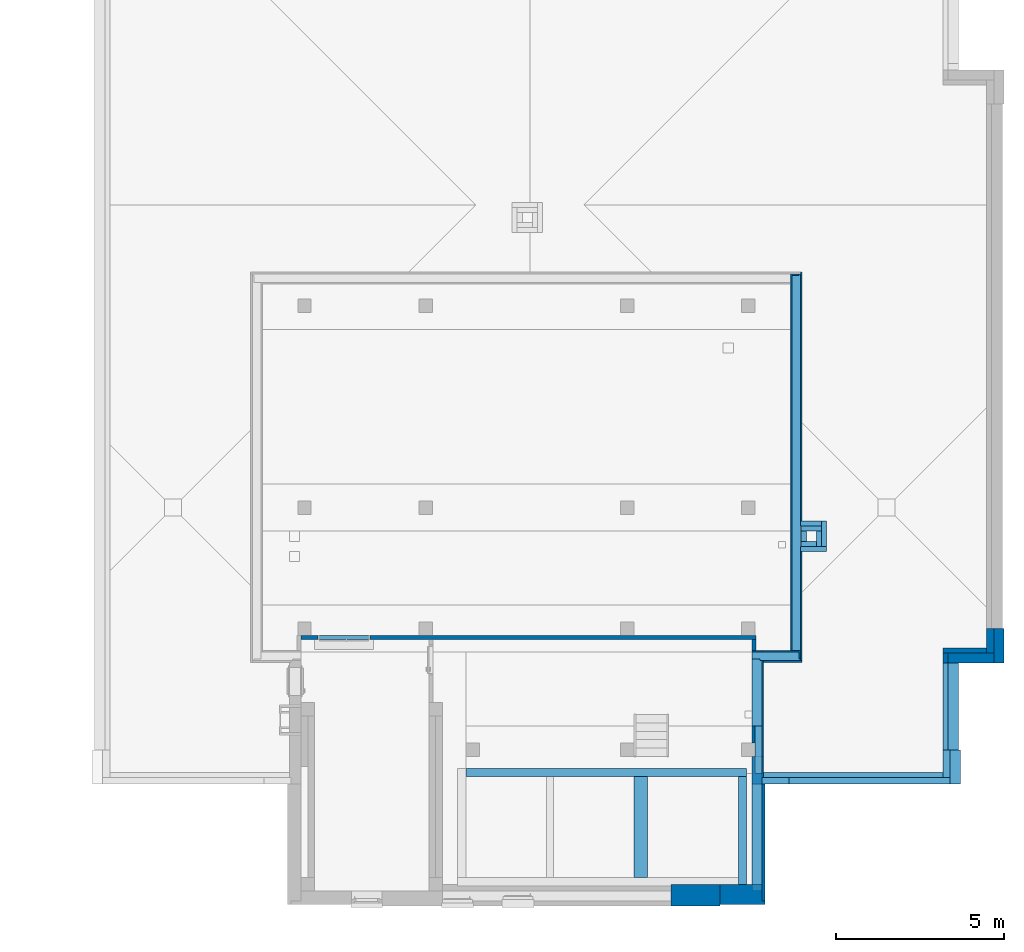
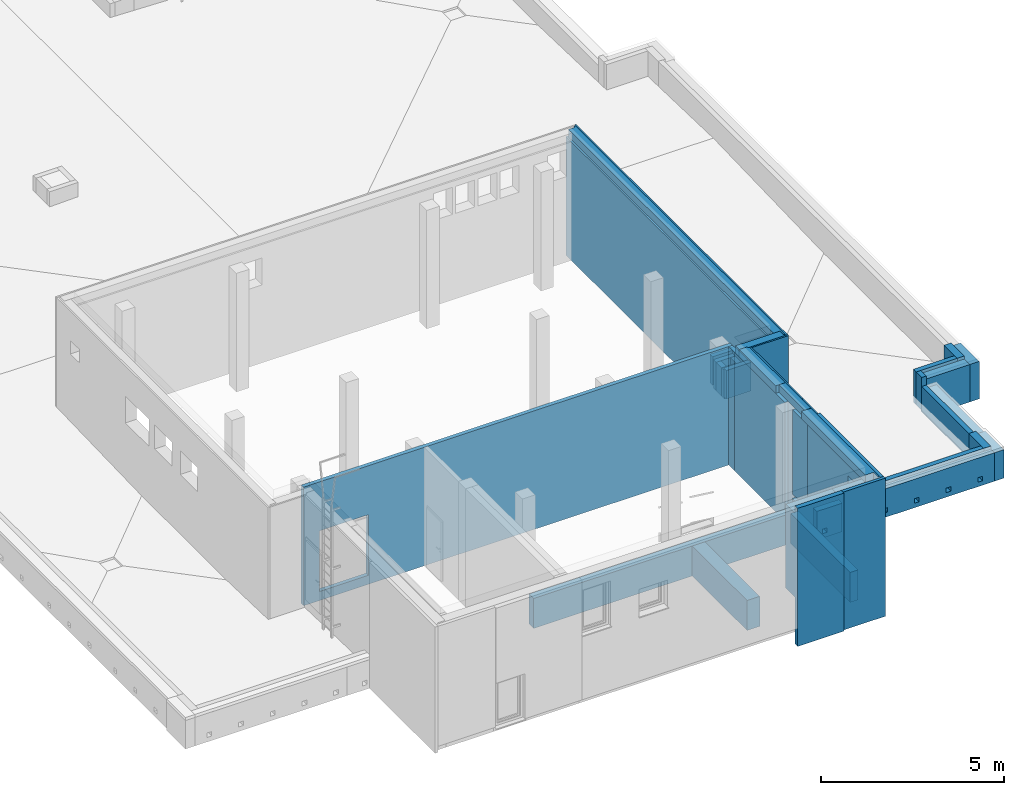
# One storey, part 5 of 17: 37 walls, 10 openings.
"""IFC4 building model written with IfcOpenShell, lengths in metres."""

from ifc_helpers import new_model, entity, si_unit, converted_unit, derived_unit, frame, frame_2d, origin, origin_with_axes, place, context, subcontext, project, spatial, polyline, rectangle, outline, extrude, clip, bounded_halfspace, material, layer, layer_set, layer_usage, element, save


model = new_model("IFC4")

# Units and contexts
model_context = context("Model", 3, precision=1e-05, world=origin())
body_context = subcontext(model_context, "Body", "Model", "MODEL_VIEW")
ifc_project = project(units=[si_unit("LENGTHUNIT", "METRE"), si_unit("AREAUNIT", "SQUARE_METRE"), si_unit("VOLUMEUNIT", "CUBIC_METRE"), si_unit("MASSUNIT", "GRAM", prefix="KILO"), converted_unit("PLANEANGLEUNIT", "DEGREE", entity("IfcPlaneAngleMeasure", 0.0174532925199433), si_unit("PLANEANGLEUNIT", "RADIAN"), dimensions=[0, 0, 0, 0, 0, 0, 0]), derived_unit("THERMALTRANSMITTANCEUNIT", [(si_unit("POWERUNIT", "WATT"), 1), (si_unit("THERMODYNAMICTEMPERATUREUNIT", "KELVIN"), -1), (si_unit("LENGTHUNIT", "METRE"), -2)]), derived_unit("VOLUMETRICFLOWRATEUNIT", [(si_unit("LENGTHUNIT", "METRE"), 3), (converted_unit("TIMEUNIT", "hour", entity("IfcTimeMeasure", 3600.0), si_unit("TIMEUNIT", "SECOND"), dimensions=[0, 0, 1, 0, 0, 0, 0]), -1), (si_unit("LENGTHUNIT", "METRE"), -1)])], contexts=[model_context])

# Site, building, storey
site_placement = place(None, origin())
site = spatial("IfcSite", under=ifc_project, at=site_placement, Name="3. ASŘ", CompositionType="ELEMENT")
building_placement = place(site_placement, origin())
building = spatial("IfcBuilding", under=site, at=building_placement, Name="Pavilon C", CompositionType="ELEMENT")
storey_placement = place(building_placement, frame((0.0, 0.0, 13.8)))
storey = spatial("IfcBuildingStorey", under=building, at=storey_placement, Name="Půdorys 5.NP", CompositionType="ELEMENT", Elevation=13.8)

# Walls
ifc_material_1 = material(Name="PLYNOSILIKÁT")
ifc_layer_1 = layer(ifc_material_1, 0.3)
ifc_layer_set_1 = layer_set([ifc_layer_1])
ifc_layer_usage_1 = layer_usage(ifc_layer_set_1, "AXIS2", "POSITIVE", 0.0)
wall_1_placement = place(storey_placement, frame((44.35, -4.2, -0.1), z_axis=(0.0, 0.0, 1.0), x_axis=(0.0, 1.0, 0.0)))
element("IfcWall", 1, at=wall_1_placement, inside=storey, material=ifc_layer_usage_1, Name="PLYNOSILIKÁT", context=body_context, shape_type="SweptSolid", body=[
    extrude(rectangle(XDim=3.99999999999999, YDim=0.3, at=frame_2d((2.0, 0.15), x_axis=(1.0, 0.0))), origin_with_axes(), (0.0, 0.0, 1.0), 1.0),
])
ifc_material_2 = material(Name="ZDIVO Z CDm")
ifc_layer_2 = layer(ifc_material_2, 0.25)
ifc_layer_set_2 = layer_set([ifc_layer_2])
ifc_layer_usage_2 = layer_usage(ifc_layer_set_2, "AXIS2", "POSITIVE", 0.0)
wall_2_placement = place(storey_placement, frame((43.65, -0.800000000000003, -0.1), z_axis=(0.0, 0.0, 1.0), x_axis=(0.0, -1.0, 0.0)))
element("IfcWall", 2, at=wall_2_placement, inside=storey, material=ifc_layer_usage_2, Name="ZDIVO Z CDm", context=body_context, shape_type="SweptSolid", body=[
    extrude(rectangle(XDim=3.25000000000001, YDim=0.25, at=frame_2d((1.625, 0.125), x_axis=(1.0, 0.0))), origin_with_axes(), (0.0, 0.0, 1.0), 1.0),
])
ifc_material_3 = material(Name="ZDIVO Z CDm")
ifc_layer_3 = layer(ifc_material_3, 0.25)
ifc_layer_set_3 = layer_set([ifc_layer_3])
ifc_layer_usage_3 = layer_usage(ifc_layer_set_3, "AXIS2", "POSITIVE", 0.0)
wall_3_placement = place(storey_placement, frame((35.55, -0.800000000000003, -0.1)))
element("IfcWall", 3, at=wall_3_placement, inside=storey, material=ifc_layer_usage_3, Name="ZDIVO Z CDm", context=body_context, shape_type="SweptSolid", body=[
    extrude(rectangle(XDim=8.34999999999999, YDim=0.25, at=frame_2d((4.175, 0.125), x_axis=(1.0, 0.0))), origin_with_axes(), (0.0, 0.0, 1.0), 1.0),
])

# Wall, opening
ifc_material_4 = material(Name="ZDIVO Z CDm")
ifc_layer_4 = layer(ifc_material_4, 0.125)
ifc_layer_set_4 = layer_set([ifc_layer_4])
ifc_layer_usage_4 = layer_usage(ifc_layer_set_4, "AXIS2", "POSITIVE", 0.0)
wall_4_placement = place(storey_placement, frame((30.65, 3.275, -0.1)))
wall_4 = element("IfcWall", 4, at=wall_4_placement, inside=storey, material=ifc_layer_usage_4, Name="ZDIVO Z CDm", context=body_context, shape_type="SweptSolid", body=[
    extrude(rectangle(XDim=13.525, YDim=0.125, at=frame_2d((6.7625, 0.0625000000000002), x_axis=(1.0, 0.0))), origin_with_axes(), (0.0, 0.0, 1.0), 3.95),
])
opening_1_placement = place(wall_4_placement, frame((0.5, 0.0, 0.3), z_axis=(0.0, 1.0, 0.0), x_axis=(0.0, 0.0, 1.0)))
element("IfcOpeningElement", 5, at=opening_1_placement, cuts=wall_4, Name="Dveřní otvor", ObjectType="Opening", context=body_context, shape_type="SweptSolid", body=[
    extrude(outline(polyline([(0.0, 1.55), (2.02, 1.55), (2.02, 0.0), (0.0, 0.0), (0.0, 1.55)])), origin_with_axes(), (0.0, 0.0, 1.0), 0.125),
])

# Walls
ifc_material_5 = material(Name="ZDIVO Z CDm")
ifc_layer_5 = layer(ifc_material_5, 0.125)
ifc_layer_set_5 = layer_set([ifc_layer_5])
ifc_layer_usage_5 = layer_usage(ifc_layer_set_5, "AXIS2", "POSITIVE", 0.0)
wall_5_placement = place(storey_placement, frame((44.05, 3.275, -0.1), z_axis=(0.0, 0.0, 1.0), x_axis=(0.0, -1.0, 0.0)))
element("IfcWall", 6, at=wall_5_placement, inside=storey, material=ifc_layer_usage_5, Name="ZDIVO Z CDm", context=body_context, shape_type="SweptSolid", body=[
    extrude(rectangle(XDim=0.325, YDim=0.125, at=frame_2d((0.1625, 0.0625), x_axis=(1.0, 0.0))), origin_with_axes(), (0.0, 0.0, 1.0), 3.95),
])
ifc_material_6 = material(Name="ZDIVO Z CDm")
ifc_layer_6 = layer(ifc_material_6, 0.4)
ifc_layer_set_6 = layer_set([ifc_layer_6])
ifc_layer_usage_6 = layer_usage(ifc_layer_set_6, "AXIS2", "POSITIVE", 0.0)
wall_6_placement = place(storey_placement, frame((40.55, -0.800000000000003, -0.1), z_axis=(0.0, 0.0, 1.0), x_axis=(0.0, -1.0, 0.0)))
element("IfcWall", 7, at=wall_6_placement, inside=storey, material=ifc_layer_usage_6, Name="ZDIVO Z CDm", context=body_context, shape_type="SweptSolid", body=[
    extrude(rectangle(XDim=3.00000000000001, YDim=0.4, at=frame_2d((1.5, 0.2), x_axis=(1.0, 0.0))), origin_with_axes(), (0.0, 0.0, 1.0), 1.0),
])
ifc_material_7 = material(Name="ZDIVO Z CDm")
ifc_layer_7 = layer(ifc_material_7, 0.150000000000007)
ifc_layer_set_7 = layer_set([ifc_layer_7])
ifc_layer_usage_7 = layer_usage(ifc_layer_set_7, "AXIS2", "POSITIVE", 0.0)
wall_7_placement = place(storey_placement, frame((45.97, 6.5, -0.1), z_axis=(0.0, 0.0, 1.0), x_axis=(0.0, -1.0, 0.0)))
element("IfcWall", 8, at=wall_7_placement, inside=storey, material=ifc_layer_usage_7, Name="ZDIVO Z CDm", context=body_context, shape_type="SweptSolid", body=[
    extrude(rectangle(XDim=0.450000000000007, YDim=0.150000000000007, at=frame_2d((0.225000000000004, 0.0750000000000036), x_axis=(1.0, 0.0))), origin_with_axes(), (0.0, 0.0, 1.0), 0.95),
])
ifc_material_8 = material(Name="ZDIVO Z CDm")
ifc_layer_8 = layer(ifc_material_8, 0.150000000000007)
ifc_layer_set_8 = layer_set([ifc_layer_8])
ifc_layer_usage_8 = layer_usage(ifc_layer_set_8, "AXIS2", "POSITIVE", 0.0)
wall_8_placement = place(storey_placement, frame((45.97, 6.2, -0.1), z_axis=(0.0, 0.0, 1.0), x_axis=(-1.0, 0.0, 0.0)))
element("IfcWall", 9, at=wall_8_placement, inside=storey, material=ifc_layer_usage_8, Name="ZDIVO Z CDm", context=body_context, shape_type="SweptSolid", body=[
    extrude(rectangle(XDim=0.450000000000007, YDim=0.150000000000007, at=frame_2d((0.225000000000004, 0.0750000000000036), x_axis=(1.0, 0.0))), origin_with_axes(), (0.0, 0.0, 1.0), 0.95),
])
ifc_material_9 = material(Name="ZDIVO Z CDm")
ifc_layer_9 = layer(ifc_material_9, 0.150000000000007)
ifc_layer_set_9 = layer_set([ifc_layer_9])
ifc_layer_usage_9 = layer_usage(ifc_layer_set_9, "AXIS2", "POSITIVE", 0.0)
wall_9_placement = place(storey_placement, frame((45.67, 6.2, -0.1), z_axis=(0.0, 0.0, 1.0), x_axis=(-4.85063840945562e-14, 1.0, 0.0)))
element("IfcWall", 10, at=wall_9_placement, inside=storey, material=ifc_layer_usage_9, Name="ZDIVO Z CDm", context=body_context, shape_type="SweptSolid", body=[
    extrude(rectangle(XDim=0.3, YDim=0.150000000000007, at=frame_2d((0.15, 0.0750000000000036), x_axis=(1.0, 0.0))), origin_with_axes(), (0.0, 0.0, 1.0), 0.95),
])
ifc_material_10 = material(Name="ZDIVO Z CDm")
ifc_layer_10 = layer(ifc_material_10, 0.150000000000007)
ifc_layer_set_10 = layer_set([ifc_layer_10])
ifc_layer_usage_10 = layer_usage(ifc_layer_set_10, "AXIS2", "POSITIVE", 0.0)
wall_10_placement = place(storey_placement, frame((45.52, 6.5, -0.1)))
element("IfcWall", 11, at=wall_10_placement, inside=storey, material=ifc_layer_usage_10, Name="ZDIVO Z CDm", context=body_context, shape_type="SweptSolid", body=[
    extrude(rectangle(XDim=0.600000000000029, YDim=0.150000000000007, at=frame_2d((0.300000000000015, 0.0750000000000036), x_axis=(1.0, 0.0))), origin_with_axes(), (0.0, 0.0, 1.0), 0.95),
])
ifc_material_11 = material(Name="EPS")
ifc_layer_11 = layer(ifc_material_11, 0.05)
ifc_material_12 = material(Name="PLYNOSILIKÁT")
ifc_layer_12 = layer(ifc_material_12, 0.3)
ifc_layer_set_11 = layer_set([ifc_layer_11, ifc_layer_12])
ifc_layer_usage_11 = layer_usage(ifc_layer_set_11, "AXIS2", "POSITIVE", -0.05)
wall_11_placement = place(storey_placement, frame((45.55, 2.65, -0.1), z_axis=(0.0, 0.0, 1.0), x_axis=(0.0, 1.0, 0.0)))
element("IfcWall", 12, at=wall_11_placement, inside=storey, material=ifc_layer_usage_11, Name="PLYNOSILIKÁT", context=body_context, shape_type="Clipping", body=[
    clip(extrude(outline(polyline([(0.0, -0.35), (11.55, -0.35), (11.55, -0.3), (11.5, -0.3), (11.5, 0.0), (0.3, 0.0), (0.3, -0.3), (0.0, -0.3), (0.0, -0.35)])), frame((0.0, 0.35, 0.0), z_axis=(0.0, 0.0, 1.0), x_axis=(1.0, 0.0, 0.0)), (0.0, 0.0, 1.0), 4.2), bounded_halfspace(frame((5.9, 0.2, 3.95), z_axis=(0.0, 0.0, -1.0), x_axis=(1.0, 0.0, 0.0)), True, origin_with_axes(), polyline([(0.3, 0.05), (11.5, 0.05), (11.5, 0.35), (0.3, 0.35), (0.3, 0.05)]))),
])
ifc_material_13 = material(Name="EPS")
ifc_layer_13 = layer(ifc_material_13, 0.15)
ifc_material_14 = material(Name="PLYNOSILIKÁT")
ifc_layer_14 = layer(ifc_material_14, 0.5)
ifc_layer_set_12 = layer_set([ifc_layer_13, ifc_layer_14])
ifc_layer_usage_12 = layer_usage(ifc_layer_set_12, "AXIS2", "POSITIVE", -0.15)
wall_12_placement = place(storey_placement, frame((41.65, -4.65, -0.5)))
element("IfcWall", 13, at=wall_12_placement, inside=storey, material=ifc_layer_usage_12, Name="PLYNOSILIKÁT", context=body_context, shape_type="Clipping", body=[
    clip(clip(extrude(rectangle(XDim=1.46, YDim=0.65, at=frame_2d((0.73, 0.325), x_axis=(1.0, 0.0))), origin_with_axes(), (0.0, 0.0, 1.0), 4.6), bounded_halfspace(frame((0.73, 0.4, 1.55), z_axis=(0.0, 0.0, 1.0), x_axis=(0.0, -1.0, 0.0)), True, origin_with_axes(), polyline([(0.0, 0.65), (0.0, 0.15), (1.46, 0.15), (1.46, 0.65), (0.0, 0.65)]))), bounded_halfspace(frame((0.73, 0.4, 4.35), z_axis=(0.0, 0.0, -1.0), x_axis=(1.0, 0.0, 0.0)), True, origin_with_axes(), polyline([(0.0, 0.15), (1.46, 0.15), (1.46, 0.65), (0.0, 0.65), (0.0, 0.15)]))),
])
ifc_material_15 = material(Name="EPS")
ifc_layer_15 = layer(ifc_material_15, 0.1)
ifc_material_16 = material(Name="PLYNOSILIKÁT")
ifc_layer_16 = layer(ifc_material_16, 0.5)
ifc_layer_set_13 = layer_set([ifc_layer_15, ifc_layer_16])
ifc_layer_usage_13 = layer_usage(ifc_layer_set_13, "AXIS2", "POSITIVE", -0.1)
wall_13_placement = place(storey_placement, frame((43.11, -4.6, -0.5)))
element("IfcWall", 14, at=wall_13_placement, inside=storey, material=ifc_layer_usage_13, Name="PLYNOSILIKÁT", context=body_context, shape_type="Clipping", body=[
    clip(clip(extrude(outline(polyline([(0.0, 0.0), (1.34, 0.0), (1.34, 0.1), (1.24, 0.1), (1.24, 0.6), (0.0, 0.6), (0.0, 0.0)])), origin_with_axes(), (0.0, 0.0, 1.0), 4.6), bounded_halfspace(frame((0.62, 0.35, 1.55), z_axis=(0.0, 0.0, 1.0), x_axis=(0.0, -1.0, 0.0)), True, origin_with_axes(), polyline([(0.0, 0.6), (0.0, 0.1), (1.24, 0.1), (1.24, 0.6), (0.0, 0.6)]))), bounded_halfspace(frame((0.62, 0.35, 4.35), z_axis=(0.0, 0.0, -1.0), x_axis=(1.0, 0.0, 0.0)), True, origin_with_axes(), polyline([(0.0, 0.1), (1.24, 0.1), (1.24, 0.6), (0.0, 0.6), (0.0, 0.1)]))),
])

# Wall, opening
ifc_material_17 = material(Name="EPS")
ifc_layer_17 = layer(ifc_material_17, 0.1)
ifc_material_18 = material(Name="PLYNOSILIKÁT")
ifc_layer_18 = layer(ifc_material_18, 0.3)
ifc_layer_set_14 = layer_set([ifc_layer_17, ifc_layer_18])
ifc_layer_usage_14 = layer_usage(ifc_layer_set_14, "AXIS2", "POSITIVE", -0.1)
wall_14_placement = place(storey_placement, frame((44.45, -4.5, -0.1), z_axis=(0.0, 0.0, 1.0), x_axis=(0.0, 1.0, 0.0)))
wall_14 = element("IfcWall", 15, at=wall_14_placement, inside=storey, material=ifc_layer_usage_14, Name="PLYNOSILIKÁT", context=body_context, shape_type="Clipping", body=[
    clip(clip(extrude(outline(polyline([(0.5, 0.0), (0.5, -0.3), (0.0, -0.3), (0.0, -0.4), (3.48, -0.4), (3.48, 0.0), (0.5, 0.0)])), frame((0.0, 0.4, 0.0), z_axis=(0.0, 0.0, 1.0), x_axis=(1.0, 0.0, 0.0)), (0.0, 0.0, 1.0), 4.2), bounded_halfspace(frame((1.99, 0.25, 1.15), z_axis=(0.0, 0.0, 1.0), x_axis=(0.0, -1.0, 0.0)), True, origin_with_axes(), polyline([(0.5, 0.4), (0.5, 0.1), (3.48, 0.1), (3.48, 0.4), (0.5, 0.4)]))), bounded_halfspace(frame((1.99, 0.25, 3.95), z_axis=(0.0, 0.0, -1.0), x_axis=(1.0, 0.0, 0.0)), True, origin_with_axes(), polyline([(0.5, 0.1), (3.48, 0.1), (3.48, 0.4), (0.5, 0.4), (0.5, 0.1)]))),
])
opening_2_placement = place(wall_14_placement, frame((0.650000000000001, 0.0, 3.1), z_axis=(0.0, 1.0, 0.0), x_axis=(0.0, 0.0, 1.0)))
element("IfcOpeningElement", 16, at=opening_2_placement, cuts=wall_14, Name="Prostup stěnou", ObjectType="Opening", context=body_context, shape_type="SweptSolid", body=[
    extrude(outline(polyline([(0.0, 0.6), (0.5, 0.6), (0.5, 0.0), (0.0, 0.0), (0.0, 0.6)])), origin_with_axes(), (0.0, 0.0, 1.0), 0.1),
    extrude(outline(polyline([(0.0, 0.6), (0.5, 0.6), (0.5, 0.0), (0.0, 0.0), (0.0, 0.6)])), frame((0.0, 0.0, 0.1), z_axis=(0.0, 0.0, 1.0), x_axis=(1.0, 0.0, 0.0)), (0.0, 0.0, 1.0), 0.3),
])

# Walls
ifc_material_19 = material(Name="EPS")
ifc_layer_19 = layer(ifc_material_19, 0.05)
ifc_material_20 = material(Name="PLYNOSILIKÁT")
ifc_layer_20 = layer(ifc_material_20, 0.3)
ifc_layer_set_15 = layer_set([ifc_layer_19, ifc_layer_20])
ifc_layer_usage_15 = layer_usage(ifc_layer_set_15, "AXIS2", "POSITIVE", -0.05)
wall_15_placement = place(storey_placement, frame((44.4, -1.02, -0.1), z_axis=(0.0, 0.0, 1.0), x_axis=(0.0, 1.0, 0.0)))
element("IfcWall", 17, at=wall_15_placement, inside=storey, material=ifc_layer_usage_15, Name="PLYNOSILIKÁT", context=body_context, shape_type="Clipping", body=[
    clip(clip(extrude(rectangle(XDim=0.819999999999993, YDim=0.35, at=frame_2d((0.409999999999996, 0.175), x_axis=(1.0, 0.0))), origin_with_axes(), (0.0, 0.0, 1.0), 4.2), bounded_halfspace(frame((0.409999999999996, 0.2, 1.15), z_axis=(0.0, 0.0, 1.0), x_axis=(0.0, -1.0, 0.0)), True, origin_with_axes(), polyline([(0.0, 0.35), (0.0, 0.05), (0.819999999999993, 0.05), (0.819999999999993, 0.35), (0.0, 0.35)]))), bounded_halfspace(frame((0.409999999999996, 0.2, 3.95), z_axis=(0.0, 0.0, -1.0), x_axis=(1.0, 0.0, 0.0)), True, origin_with_axes(), polyline([(0.0, 0.05), (0.819999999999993, 0.05), (0.819999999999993, 0.35), (0.0, 0.35), (0.0, 0.05)]))),
])
ifc_material_21 = material(Name="EPS")
ifc_layer_21 = layer(ifc_material_21, 0.05)
ifc_material_22 = material(Name="PLYNOSILIKÁT")
ifc_layer_22 = layer(ifc_material_22, 0.3)
ifc_layer_set_16 = layer_set([ifc_layer_21, ifc_layer_22])
ifc_layer_usage_16 = layer_usage(ifc_layer_set_16, "AXIS2", "POSITIVE", -0.05)
wall_16_placement = place(storey_placement, frame((44.4, -0.20000000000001, -0.1), z_axis=(0.0, 0.0, 1.0), x_axis=(0.0, 1.0, 0.0)))
element("IfcWall", 18, at=wall_16_placement, inside=storey, material=ifc_layer_usage_16, Name="PLYNOSILIKÁT", context=body_context, shape_type="Clipping", body=[
    clip(extrude(outline(polyline([(0.0, -0.35), (2.85000000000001, -0.35), (2.85000000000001, -0.3), (3.15000000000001, -0.3), (3.15000000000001, 0.0), (0.400000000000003, 0.0), (0.400000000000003, -0.1), (0.0, -0.1), (0.0, -0.35)])), frame((0.0, 0.35, 0.0), z_axis=(0.0, 0.0, 1.0), x_axis=(1.0, 0.0, 0.0)), (0.0, 0.0, 1.0), 4.2), bounded_halfspace(frame((1.42142857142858, 0.192857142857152, 3.95), z_axis=(0.0, 0.0, -1.0), x_axis=(1.0, 0.0, 0.0)), True, origin_with_axes(), polyline([(2.85000000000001, 0.05), (3.15000000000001, 0.05), (3.15000000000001, 0.35), (0.400000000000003, 0.35), (0.400000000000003, 0.25), (0.0, 0.25), (2.27373675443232e-16, 0.05), (2.85000000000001, 0.05)]))),
])
ifc_material_23 = material(Name="EPS")
ifc_layer_23 = layer(ifc_material_23, 0.05)
ifc_material_24 = material(Name="PLYNOSILIKÁT")
ifc_layer_24 = layer(ifc_material_24, 0.3)
ifc_layer_set_17 = layer_set([ifc_layer_23, ifc_layer_24])
ifc_layer_usage_17 = layer_usage(ifc_layer_set_17, "AXIS2", "POSITIVE", -0.05)
wall_17_placement = place(storey_placement, frame((44.4, 2.6, -0.1)))
element("IfcWall", 19, at=wall_17_placement, inside=storey, material=ifc_layer_usage_17, Name="PLYNOSILIKÁT", context=body_context, shape_type="Clipping", body=[
    clip(extrude(outline(polyline([(0.05, 0.0), (1.2, 0.0), (1.2, 0.05), (1.15, 0.05), (1.15, 0.35), (0.0, 0.35), (0.0, 0.05), (0.05, 0.05), (0.05, 0.0)])), frame((-0.05, 0.0, 0.0), z_axis=(0.0, 0.0, 1.0), x_axis=(1.0, 0.0, 0.0)), (0.0, 0.0, 1.0), 4.2), bounded_halfspace(frame((0.42, 0.17, 3.95), z_axis=(0.0, 0.0, -1.0), x_axis=(1.0, 0.0, 0.0)), True, origin_with_axes(), polyline([(0.0, 0.05), (1.1, 0.05), (1.1, 0.35), (-0.05, 0.35), (-0.05, 0.05), (0.0, 0.05)]))),
])

# Wall, openings
ifc_material_25 = material(Name="ZDIVO Z CDm")
ifc_layer_25 = layer(ifc_material_25, 0.32)
ifc_layer_set_18 = layer_set([ifc_layer_25])
ifc_layer_usage_18 = layer_usage(ifc_layer_set_18, "AXIS2", "POSITIVE", 0.0)
wall_18_placement = place(storey_placement, frame((50.2, -5.51980683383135e-15, -0.1), z_axis=(0.0, 0.0, 1.0), x_axis=(0.0, 1.0, 0.0)))
wall_18 = element("IfcWall", 20, at=wall_18_placement, inside=storey, material=ifc_layer_usage_18, Name="ZDIVO Z CDm", context=body_context, shape_type="SweptSolid", body=[
    extrude(rectangle(XDim=2.58, YDim=0.32, at=frame_2d((1.29, 0.16), x_axis=(1.0, 0.0))), origin_with_axes(), (0.0, 0.0, 1.0), 0.95),
])
opening_3_placement = place(wall_18_placement, frame((2.13, 0.0, 0.15), z_axis=(0.0, 1.0, 0.0), x_axis=(0.0, 0.0, 1.0)))
element("IfcOpeningElement", 21, at=opening_3_placement, cuts=wall_18, Name="Prostup stěnou", ObjectType="Opening", context=body_context, shape_type="SweptSolid", body=[
    extrude(outline(polyline([(0.0, 0.15), (0.15, 0.15), (0.15, 0.0), (0.0, 0.0), (0.0, 0.15)])), origin_with_axes(), (0.0, 0.0, 1.0), 0.32),
])
opening_4_placement = place(wall_18_placement, frame((0.3, 0.0, 0.15), z_axis=(0.0, 1.0, 0.0), x_axis=(0.0, 0.0, 1.0)))
element("IfcOpeningElement", 22, at=opening_4_placement, cuts=wall_18, Name="Prostup stěnou", ObjectType="Opening", context=body_context, shape_type="SweptSolid", body=[
    extrude(outline(polyline([(0.0, 0.15), (0.15, 0.15), (0.15, 0.0), (0.0, 0.0), (0.0, 0.15)])), origin_with_axes(), (0.0, 0.0, 1.0), 0.32),
])

# Wall, opening
ifc_material_26 = material(Name="ZDIVO Z CDm")
ifc_layer_26 = layer(ifc_material_26, 0.2)
ifc_layer_set_19 = layer_set([ifc_layer_26])
ifc_layer_usage_19 = layer_usage(ifc_layer_set_19, "AXIS2", "POSITIVE", 0.0)
wall_19_placement = place(storey_placement, frame((44.35, -1.02, -0.1)))
wall_19 = element("IfcWall", 23, at=wall_19_placement, inside=storey, material=ifc_layer_usage_19, Name="ZDIVO Z CDm", context=body_context, shape_type="SweptSolid", body=[
    extrude(rectangle(XDim=0.8, YDim=0.2, at=frame_2d((0.4, 0.1), x_axis=(1.0, 0.0))), origin_with_axes(), (0.0, 0.0, 1.0), 0.95),
])
opening_5_placement = place(wall_19_placement, frame((0.325, 0.200000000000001, 0.15), z_axis=(0.0, -1.0, 0.0), x_axis=(0.0, 0.0, 1.0)))
element("IfcOpeningElement", 24, at=opening_5_placement, cuts=wall_19, Name="Prostup stěnou", ObjectType="Opening", context=body_context, shape_type="SweptSolid", body=[
    extrude(outline(polyline([(0.0, 0.15), (0.15, 0.15), (0.15, 0.0), (0.0, 0.0), (0.0, 0.15)])), origin_with_axes(), (0.0, 0.0, 1.0), 0.2),
])

# Wall, openings
ifc_material_27 = material(Name="ZELEZOBETONOVÁ KCE")
ifc_layer_27 = layer(ifc_material_27, 0.2)
ifc_layer_set_20 = layer_set([ifc_layer_27])
ifc_layer_usage_20 = layer_usage(ifc_layer_set_20, "AXIS2", "POSITIVE", 0.0)
wall_20_placement = place(storey_placement, frame((45.15, -1.02, -0.1)))
wall_20 = element("IfcWall", 25, at=wall_20_placement, inside=storey, material=ifc_layer_usage_20, Name="ZELEZOBETONOVÁ KCE", context=body_context, shape_type="SweptSolid", body=[
    extrude(rectangle(XDim=4.8, YDim=0.2, at=frame_2d((2.4, 0.1), x_axis=(1.0, 0.0))), origin_with_axes(), (0.0, 0.0, 1.0), 0.95),
])
opening_6_placement = place(wall_20_placement, frame((0.425, 0.200000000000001, 0.15), z_axis=(0.0, -1.0, 0.0), x_axis=(0.0, 0.0, 1.0)))
element("IfcOpeningElement", 26, at=opening_6_placement, cuts=wall_20, Name="Prostup stěnou", ObjectType="Opening", context=body_context, shape_type="SweptSolid", body=[
    extrude(outline(polyline([(0.0, 0.15), (0.15, 0.15), (0.15, 0.0), (0.0, 0.0), (0.0, 0.15)])), origin_with_axes(), (0.0, 0.0, 1.0), 0.2),
])
opening_7_placement = place(wall_20_placement, frame((1.425, 0.199999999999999, 0.15), z_axis=(0.0, -1.0, 0.0), x_axis=(0.0, 0.0, 1.0)))
element("IfcOpeningElement", 27, at=opening_7_placement, cuts=wall_20, Name="Prostup stěnou", ObjectType="Opening", context=body_context, shape_type="SweptSolid", body=[
    extrude(outline(polyline([(0.0, 0.15), (0.15, 0.15), (0.15, 0.0), (0.0, 0.0), (0.0, 0.15)])), origin_with_axes(), (0.0, 0.0, 1.0), 0.2),
])
opening_8_placement = place(wall_20_placement, frame((2.425, 0.200000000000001, 0.15), z_axis=(0.0, -1.0, 0.0), x_axis=(0.0, 0.0, 1.0)))
element("IfcOpeningElement", 28, at=opening_8_placement, cuts=wall_20, Name="Prostup stěnou", ObjectType="Opening", context=body_context, shape_type="SweptSolid", body=[
    extrude(outline(polyline([(0.0, 0.15), (0.15, 0.15), (0.15, 0.0), (0.0, 0.0), (0.0, 0.15)])), origin_with_axes(), (0.0, 0.0, 1.0), 0.2),
])
opening_9_placement = place(wall_20_placement, frame((3.425, 0.200000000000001, 0.15), z_axis=(0.0, -1.0, 0.0), x_axis=(0.0, 0.0, 1.0)))
element("IfcOpeningElement", 29, at=opening_9_placement, cuts=wall_20, Name="Prostup stěnou", ObjectType="Opening", context=body_context, shape_type="SweptSolid", body=[
    extrude(outline(polyline([(0.0, 0.15), (0.15, 0.15), (0.15, 0.0), (0.0, 0.0), (0.0, 0.15)])), origin_with_axes(), (0.0, 0.0, 1.0), 0.2),
])
opening_10_placement = place(wall_20_placement, frame((4.425, 0.2, 0.15), z_axis=(0.0, -1.0, 0.0), x_axis=(0.0, 0.0, 1.0)))
element("IfcOpeningElement", 30, at=opening_10_placement, cuts=wall_20, Name="Prostup stěnou", ObjectType="Opening", context=body_context, shape_type="SweptSolid", body=[
    extrude(outline(polyline([(0.0, 0.15), (0.15, 0.15), (0.15, 0.0), (0.0, 0.0), (0.0, 0.15)])), origin_with_axes(), (0.0, 0.0, 1.0), 0.2),
])

# Walls
ifc_material_28 = material(Name="ZELEZOBETONOVÁ KCE")
ifc_layer_28 = layer(ifc_material_28, 0.3)
ifc_layer_set_21 = layer_set([ifc_layer_28])
ifc_layer_usage_21 = layer_usage(ifc_layer_set_21, "AXIS2", "POSITIVE", 0.0)
wall_21_placement = place(storey_placement, frame((50.25, -1.02000000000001, -0.1), z_axis=(0.0, 0.0, 1.0), x_axis=(0.0, 1.0, 0.0)))
element("IfcWall", 31, at=wall_21_placement, inside=storey, material=ifc_layer_usage_21, Name="ZELEZOBETONOVÁ KCE", context=body_context, shape_type="SweptSolid", body=[
    extrude(rectangle(XDim=1.02, YDim=0.3, at=frame_2d((0.51, 0.15), x_axis=(1.0, 0.0))), origin_with_axes(), (0.0, 0.0, 1.0), 0.95),
])
ifc_material_29 = material(Name="ZELEZOBETONOVÁ KCE")
ifc_layer_29 = layer(ifc_material_29, 0.3)
ifc_layer_set_22 = layer_set([ifc_layer_29])
ifc_layer_usage_22 = layer_usage(ifc_layer_set_22, "AXIS2", "POSITIVE", 0.0)
wall_22_placement = place(storey_placement, frame((49.88, 2.57999999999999, -0.1)))
element("IfcWall", 32, at=wall_22_placement, inside=storey, material=ifc_layer_usage_22, Name="ZELEZOBETONOVÁ KCE", context=body_context, shape_type="SweptSolid", body=[
    extrude(rectangle(XDim=1.37, YDim=0.3, at=frame_2d((0.685, 0.15), x_axis=(1.0, 0.0))), origin_with_axes(), (0.0, 0.0, 1.0), 1.25),
])
ifc_material_30 = material(Name="ZELEZOBETONOVÁ KCE")
ifc_layer_30 = layer(ifc_material_30, 0.3)
ifc_layer_set_23 = layer_set([ifc_layer_30])
ifc_layer_usage_23 = layer_usage(ifc_layer_set_23, "AXIS2", "POSITIVE", 0.0)
wall_23_placement = place(storey_placement, frame((51.55, 2.57999999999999, -0.1), z_axis=(0.0, 0.0, 1.0), x_axis=(0.0, 1.0, 0.0)))
element("IfcWall", 33, at=wall_23_placement, inside=storey, material=ifc_layer_usage_23, Name="ZELEZOBETONOVÁ KCE", context=body_context, shape_type="SweptSolid", body=[
    extrude(rectangle(XDim=1.02, YDim=0.3, at=frame_2d((0.510000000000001, 0.15), x_axis=(1.0, 0.0))), origin_with_axes(), (0.0, 0.0, 1.0), 1.25),
])
ifc_material_31 = material(Name="HERAKLIT")
ifc_layer_31 = layer(ifc_material_31, 0.05)
ifc_material_32 = material(Name="ZELEZOBETONOVÁ KCE")
ifc_layer_32 = layer(ifc_material_32, 0.2)
ifc_layer_set_24 = layer_set([ifc_layer_31, ifc_layer_32])
ifc_layer_usage_24 = layer_usage(ifc_layer_set_24, "AXIS2", "POSITIVE", 0.0)
wall_24_placement = place(storey_placement, frame((44.3, 2.65, 3.85)))
element("IfcWall", 34, at=wall_24_placement, inside=storey, material=ifc_layer_usage_24, context=body_context, shape_type="SweptSolid", body=[
    extrude(outline(polyline([(0.25, 0.0), (1.45, 0.0), (1.45, 0.05), (1.4, 0.05), (1.4, 0.25), (0.0, 0.25), (0.0, 0.05), (0.25, 0.05), (0.25, 0.0)])), frame((-0.25, 0.0, 0.0), z_axis=(0.0, 0.0, 1.0), x_axis=(1.0, 0.0, 0.0)), (0.0, 0.0, 1.0), 0.25),
])
ifc_material_33 = material(Name="HERAKLIT")
ifc_layer_33 = layer(ifc_material_33, 0.05)
ifc_material_34 = material(Name="ZELEZOBETONOVÁ KCE")
ifc_layer_34 = layer(ifc_material_34, 0.2)
ifc_layer_set_25 = layer_set([ifc_layer_33, ifc_layer_34])
ifc_layer_usage_25 = layer_usage(ifc_layer_set_25, "AXIS2", "POSITIVE", 0.0)
wall_25_placement = place(storey_placement, frame((45.5, 2.7, 3.85), z_axis=(0.0, 0.0, 1.0), x_axis=(0.0, 1.0, 0.0)))
element("IfcWall", 35, at=wall_25_placement, inside=storey, material=ifc_layer_usage_25, context=body_context, shape_type="SweptSolid", body=[
    extrude(outline(polyline([(0.0, -0.25), (11.45, -0.25), (11.45, -0.2), (11.4, -0.2), (11.4, 0.0), (0.2, 0.0), (0.2, -0.2), (0.0, -0.2), (0.0, -0.25)])), frame((0.0, 0.25, 0.0), z_axis=(0.0, 0.0, 1.0), x_axis=(1.0, 0.0, 0.0)), (0.0, 0.0, 1.0), 0.25),
])
ifc_material_35 = material(Name="HERAKLIT")
ifc_layer_35 = layer(ifc_material_35, 0.05)
ifc_material_36 = material(Name="ZELEZOBETONOVÁ KCE")
ifc_layer_36 = layer(ifc_material_36, 0.25)
ifc_layer_set_26 = layer_set([ifc_layer_35, ifc_layer_36])
ifc_layer_usage_26 = layer_usage(ifc_layer_set_26, "AXIS2", "POSITIVE", 0.0)
wall_26_placement = place(storey_placement, frame((44.35, 0.699999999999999, 3.85), z_axis=(0.0, 0.0, 1.0), x_axis=(0.0, 1.0, 0.0)))
element("IfcWall", 36, at=wall_26_placement, inside=storey, material=ifc_layer_usage_26, context=body_context, shape_type="SweptSolid", body=[
    extrude(outline(polyline([(0.0, -0.3), (1.95, -0.3), (1.95, -0.25), (2.0, -0.25), (2.0, 0.0), (0.0, 0.0), (0.0, -0.3)])), frame((0.0, 0.3, 0.0), z_axis=(0.0, 0.0, 1.0), x_axis=(1.0, 0.0, 0.0)), (0.0, 0.0, 1.0), 0.25),
])
ifc_material_37 = material(Name="HERAKLIT")
ifc_layer_37 = layer(ifc_material_37, 0.05)
ifc_material_38 = material(Name="ZELEZOBETONOVÁ KCE")
ifc_layer_38 = layer(ifc_material_38, 0.25)
ifc_layer_set_27 = layer_set([ifc_layer_37, ifc_layer_38])
ifc_layer_usage_27 = layer_usage(ifc_layer_set_27, "AXIS2", "POSITIVE", 0.0)
wall_27_placement = place(storey_placement, frame((44.35, -4.45, 3.85), z_axis=(0.0, 0.0, 1.0), x_axis=(0.0, 1.0, 0.0)))
element("IfcWall", 37, at=wall_27_placement, inside=storey, material=ifc_layer_usage_27, context=body_context, shape_type="SweptSolid", body=[
    extrude(outline(polyline([(0.25, 0.0), (0.25, -0.25), (0.0, -0.25), (0.0, -0.3), (3.75, -0.3), (3.75, 0.0), (0.25, 0.0)])), frame((0.0, 0.3, 0.0), z_axis=(0.0, 0.0, 1.0), x_axis=(1.0, 0.0, 0.0)), (0.0, 0.0, 1.0), 0.25),
])
ifc_material_39 = material(Name="HERAKLIT")
ifc_layer_39 = layer(ifc_material_39, 0.05)
ifc_material_40 = material(Name="ZELEZOBETONOVÁ KCE")
ifc_layer_40 = layer(ifc_material_40, 0.15)
ifc_layer_set_28 = layer_set([ifc_layer_39, ifc_layer_40])
ifc_layer_usage_28 = layer_usage(ifc_layer_set_28, "AXIS2", "POSITIVE", 0.0)
wall_28_placement = place(storey_placement, frame((44.35, -0.700000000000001, 3.85), z_axis=(0.0, 0.0, 1.0), x_axis=(0.0, 1.0, 0.0)))
element("IfcWall", 38, at=wall_28_placement, inside=storey, material=ifc_layer_usage_28, context=body_context, shape_type="SweptSolid", body=[
    extrude(rectangle(XDim=1.4, YDim=0.2, at=frame_2d((0.7, 0.1), x_axis=(1.0, 0.0))), origin_with_axes(), (0.0, 0.0, 1.0), 0.25),
])
ifc_material_41 = material(Name="MINERÁLNÍ VATA")
ifc_layer_41 = layer(ifc_material_41, 0.22)
ifc_layer_set_29 = layer_set([ifc_layer_41])
ifc_layer_usage_29 = layer_usage(ifc_layer_set_29, "AXIS2", "POSITIVE", 0.0)
wall_29_placement = place(storey_placement, frame((51.25, 2.87999999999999, 0.16), z_axis=(0.0, 0.0, 1.0), x_axis=(0.0, 1.0, 0.0)))
element("IfcWall", 39, at=wall_29_placement, inside=storey, material=ifc_layer_usage_29, Name="MINERÁLNÍ VATA", context=body_context, shape_type="SweptSolid", body=[
    extrude(rectangle(XDim=0.720000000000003, YDim=0.22, at=frame_2d((0.360000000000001, 0.11), x_axis=(1.0, 0.0))), origin_with_axes(), (0.0, 0.0, 1.0), 1.09),
])
ifc_material_42 = material(Name="MINERÁLNÍ VATA")
ifc_layer_42 = layer(ifc_material_42, 0.22)
ifc_layer_set_30 = layer_set([ifc_layer_42])
ifc_layer_usage_30 = layer_usage(ifc_layer_set_30, "AXIS2", "POSITIVE", 0.0)
wall_30_placement = place(storey_placement, frame((49.95, -0.820000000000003, 0.16), z_axis=(0.0, 0.0, 1.0), x_axis=(0.0, 1.0, 0.0)))
element("IfcWall", 40, at=wall_30_placement, inside=storey, material=ifc_layer_usage_30, Name="MINERÁLNÍ VATA", context=body_context, shape_type="SweptSolid", body=[
    extrude(rectangle(XDim=0.819999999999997, YDim=0.22, at=frame_2d((0.409999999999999, 0.11), x_axis=(1.0, 0.0))), origin_with_axes(), (0.0, 0.0, 1.0), 0.790000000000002),
])
ifc_material_43 = material(Name="MINERÁLNÍ VATA")
ifc_layer_43 = layer(ifc_material_43, 0.15)
ifc_layer_set_31 = layer_set([ifc_layer_43])
ifc_layer_usage_31 = layer_usage(ifc_layer_set_31, "AXIS2", "POSITIVE", 0.0)
wall_31_placement = place(storey_placement, frame((49.73, 2.87999999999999, 0.16)))
element("IfcWall", 41, at=wall_31_placement, inside=storey, material=ifc_layer_usage_31, Name="MINERÁLNÍ VATA", context=body_context, shape_type="SweptSolid", body=[
    extrude(rectangle(XDim=1.3, YDim=0.15, at=frame_2d((0.65, 0.075), x_axis=(1.0, 0.0))), origin_with_axes(), (0.0, 0.0, 1.0), 1.09),
])
ifc_material_44 = material(Name="MINERÁLNÍ VATA")
ifc_layer_44 = layer(ifc_material_44, 0.15)
ifc_layer_set_32 = layer_set([ifc_layer_44])
ifc_layer_usage_32 = layer_usage(ifc_layer_set_32, "AXIS2", "POSITIVE", 0.0)
wall_32_placement = place(storey_placement, frame((49.88, -5.45696821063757e-15, 0.16), z_axis=(0.0, 0.0, 1.0), x_axis=(0.0, 1.0, 0.0)))
element("IfcWall", 42, at=wall_32_placement, inside=storey, material=ifc_layer_usage_32, Name="MINERÁLNÍ VATA", context=body_context, shape_type="SweptSolid", body=[
    extrude(rectangle(XDim=2.58, YDim=0.15, at=frame_2d((1.29, 0.075), x_axis=(1.0, 0.0))), origin_with_axes(), (0.0, 0.0, 1.0), 0.790000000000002),
])
ifc_material_45 = material(Name="MINERÁLNÍ VATA")
ifc_layer_45 = layer(ifc_material_45, 0.15)
ifc_layer_set_33 = layer_set([ifc_layer_45])
ifc_layer_usage_33 = layer_usage(ifc_layer_set_33, "AXIS2", "POSITIVE", 0.0)
wall_33_placement = place(storey_placement, frame((44.4, -0.820000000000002, 0.16), z_axis=(0.0, 0.0, 1.0), x_axis=(1.0, -1.27977678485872e-16, 0.0)))
element("IfcWall", 43, at=wall_33_placement, inside=storey, material=ifc_layer_usage_33, Name="MINERÁLNÍ VATA", context=body_context, shape_type="SweptSolid", body=[
    extrude(rectangle(XDim=5.33, YDim=0.15, at=frame_2d((2.665, 0.075), x_axis=(1.0, 0.0))), origin_with_axes(), (0.0, 0.0, 1.0), 0.790000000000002),
])
ifc_material_46 = material(Name="MINERÁLNÍ VATA")
ifc_layer_46 = layer(ifc_material_46, 0.15)
ifc_layer_set_34 = layer_set([ifc_layer_46])
ifc_layer_usage_34 = layer_usage(ifc_layer_set_34, "AXIS2", "POSITIVE", 0.0)
wall_34_placement = place(storey_placement, frame((49.88, 2.57999999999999, 0.16), z_axis=(0.0, 0.0, 1.0), x_axis=(0.0, 1.0, 0.0)))
element("IfcWall", 44, at=wall_34_placement, inside=storey, material=ifc_layer_usage_34, Name="MINERÁLNÍ VATA", context=body_context, shape_type="SweptSolid", body=[
    extrude(rectangle(XDim=0.3, YDim=0.15, at=frame_2d((0.15, 0.075), x_axis=(1.0, 0.0))), origin_with_axes(), (0.0, 0.0, 1.0), 1.09),
])
ifc_material_47 = material(Name="MINERÁLNÍ VATA")
ifc_layer_47 = layer(ifc_material_47, 0.15)
ifc_layer_set_35 = layer_set([ifc_layer_47])
ifc_layer_usage_35 = layer_usage(ifc_layer_set_35, "AXIS2", "POSITIVE", 0.0)
wall_35_placement = place(storey_placement, frame((46.27, 6.05, 0.0), z_axis=(0.0, 0.0, 1.0), x_axis=(-1.0, 0.0, 0.0)))
element("IfcWall", 45, at=wall_35_placement, inside=storey, material=ifc_layer_usage_35, Name="MINERÁLNÍ VATA", context=body_context, shape_type="SweptSolid", body=[
    extrude(rectangle(XDim=0.770000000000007, YDim=0.15, at=frame_2d((0.385000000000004, 0.075), x_axis=(1.0, 0.0))), origin_with_axes(), (0.0, 0.0, 1.0), 0.95),
])
ifc_material_48 = material(Name="MINERÁLNÍ VATA")
ifc_layer_48 = layer(ifc_material_48, 0.15)
ifc_layer_set_36 = layer_set([ifc_layer_48])
ifc_layer_usage_36 = layer_usage(ifc_layer_set_36, "AXIS2", "POSITIVE", 0.0)
wall_36_placement = place(storey_placement, frame((46.12, 6.80000000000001, 0.0), z_axis=(0.0, 0.0, 1.0), x_axis=(0.0, -1.0, 0.0)))
element("IfcWall", 46, at=wall_36_placement, inside=storey, material=ifc_layer_usage_36, Name="MINERÁLNÍ VATA", context=body_context, shape_type="SweptSolid", body=[
    extrude(rectangle(XDim=0.750000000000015, YDim=0.15, at=frame_2d((0.375000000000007, 0.075), x_axis=(1.0, 0.0))), origin_with_axes(), (0.0, 0.0, 1.0), 0.95),
])
ifc_material_49 = material(Name="MINERÁLNÍ VATA")
ifc_layer_49 = layer(ifc_material_49, 0.15)
ifc_layer_set_37 = layer_set([ifc_layer_49])
ifc_layer_usage_37 = layer_usage(ifc_layer_set_37, "AXIS2", "POSITIVE", 0.0)
wall_37_placement = place(storey_placement, frame((45.5, 6.65000000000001, 0.0)))
element("IfcWall", 47, at=wall_37_placement, inside=storey, material=ifc_layer_usage_37, Name="MINERÁLNÍ VATA", context=body_context, shape_type="SweptSolid", body=[
    extrude(rectangle(XDim=0.620000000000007, YDim=0.15, at=frame_2d((0.310000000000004, 0.075), x_axis=(1.0, 0.0))), origin_with_axes(), (0.0, 0.0, 1.0), 0.95),
])

save(model, "model.ifc")
